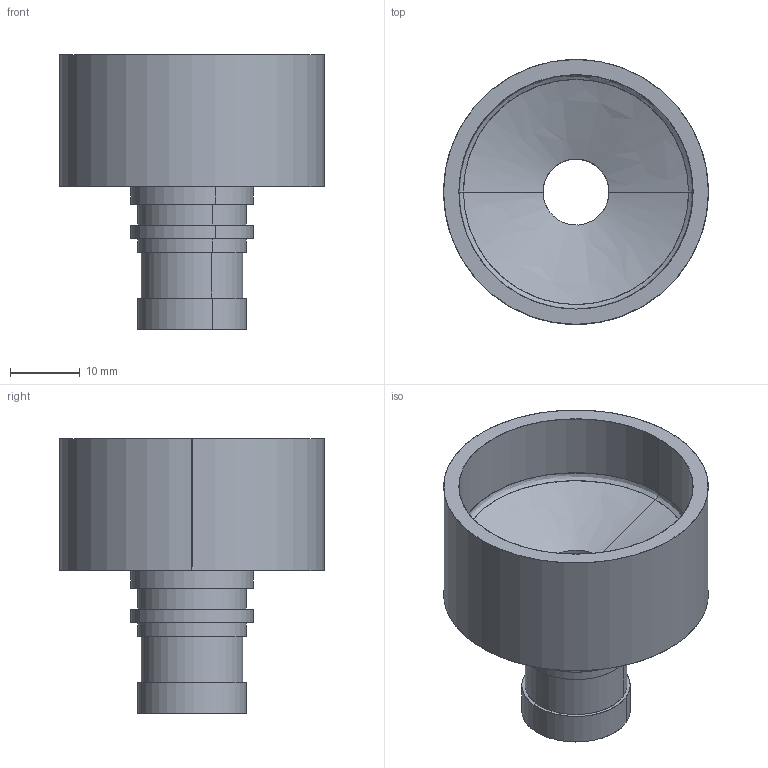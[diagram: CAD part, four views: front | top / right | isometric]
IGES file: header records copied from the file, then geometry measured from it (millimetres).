
Start section: SolidWorks IGES file using analytic representation for surfaces
Global section: file name: Part4^70-12.7R38.1-PH.IGS; native system: SolidWorks 2012; preprocessor: SolidWorks 2012; author: harada; date: 130902.112413; units: millimetre
Bounding box: 38.1 x 38.1 x 39.5 mm (x, y, z)
Surface area: 7498.8 mm2 (no closed solid volume)
Topology: 0 solids, 0 shells, 33 faces, 772 edges, 772 vertices
Faces by surface type: revolution 22, bspline 11
